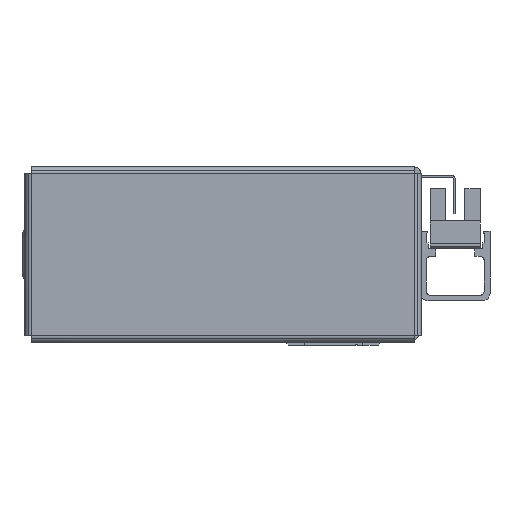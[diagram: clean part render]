
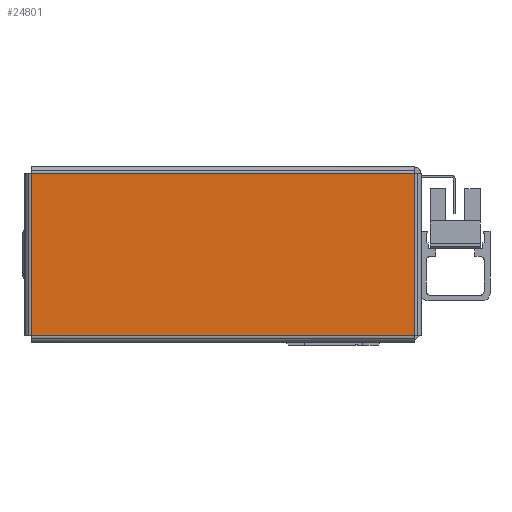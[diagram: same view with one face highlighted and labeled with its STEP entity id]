
A CAD part, left-side view. The second image highlights one B-rep face of the part: STEP entity #24801.
In plain terms, the highlighted planar face has unit normal (-1, 0, 0) as drawn and (0, 0, -1) by its records, which use the part's own axes.
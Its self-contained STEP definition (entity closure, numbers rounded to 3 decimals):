
#1122 = VECTOR ( 'NONE', #12627, 1000. ) ;
#1966 = DIRECTION ( 'NONE',  ( 1., 0., 0. ) ) ;
#2319 = CARTESIAN_POINT ( 'NONE',  ( 49.513, 21.013, -1. ) ) ;
#5187 = LINE ( 'NONE', #8451, #32665 ) ;
#6009 = LINE ( 'NONE', #33795, #14436 ) ;
#7589 = AXIS2_PLACEMENT_3D ( 'NONE', #21538, #18910, #1966 ) ;
#8451 = CARTESIAN_POINT ( 'NONE',  ( -49.513, -21.043, -1. ) ) ;
#10169 = VERTEX_POINT ( 'NONE', #2319 ) ;
#11085 = VERTEX_POINT ( 'NONE', #22578 ) ;
#11402 = CARTESIAN_POINT ( 'NONE',  ( -49.513, -21.013, -1. ) ) ;
#11528 = VERTEX_POINT ( 'NONE', #32814 ) ;
#12152 = DIRECTION ( 'NONE',  ( 1., 0., 0. ) ) ;
#12627 = DIRECTION ( 'NONE',  ( 0., -1., 0. ) ) ;
#12991 = DIRECTION ( 'NONE',  ( -1., 0., 0. ) ) ;
#14436 = VECTOR ( 'NONE', #12991, 1000. ) ;
#15351 = FACE_OUTER_BOUND ( 'NONE', #33067, .T. ) ;
#16107 = PLANE ( 'NONE',  #7589 ) ;
#16214 = LINE ( 'NONE', #30922, #1122 ) ;
#18108 = ORIENTED_EDGE ( 'NONE', *, *, #24408, .T. ) ;
#18835 = LINE ( 'NONE', #30528, #25838 ) ;
#18885 = ORIENTED_EDGE ( 'NONE', *, *, #25147, .T. ) ;
#18910 = DIRECTION ( 'NONE',  ( 0., 0., 1. ) ) ;
#18935 = ORIENTED_EDGE ( 'NONE', *, *, #25281, .T. ) ;
#19162 = ORIENTED_EDGE ( 'NONE', *, *, #25385, .T. ) ;
#21538 = CARTESIAN_POINT ( 'NONE',  ( 0., 0., -1. ) ) ;
#22578 = CARTESIAN_POINT ( 'NONE',  ( -49.513, 21.013, -1. ) ) ;
#24408 = EDGE_CURVE ( 'NONE', #30402, #11085, #5187, .T. ) ;
#24801 = ADVANCED_FACE ( 'NONE', ( #15351 ), #16107, .F. ) ;
#25055 = DIRECTION ( 'NONE',  ( 0., 1., 0. ) ) ;
#25147 = EDGE_CURVE ( 'NONE', #11085, #10169, #18835, .T. ) ;
#25281 = EDGE_CURVE ( 'NONE', #10169, #11528, #16214, .T. ) ;
#25385 = EDGE_CURVE ( 'NONE', #11528, #30402, #6009, .T. ) ;
#25838 = VECTOR ( 'NONE', #12152, 1000. ) ;
#30402 = VERTEX_POINT ( 'NONE', #11402 ) ;
#30528 = CARTESIAN_POINT ( 'NONE',  ( -49.543, 21.013, -1. ) ) ;
#30922 = CARTESIAN_POINT ( 'NONE',  ( 49.513, 21.043, -1. ) ) ;
#32665 = VECTOR ( 'NONE', #25055, 1000. ) ;
#32814 = CARTESIAN_POINT ( 'NONE',  ( 49.513, -21.013, -1. ) ) ;
#33067 = EDGE_LOOP ( 'NONE', ( #18108, #18885, #18935, #19162 ) ) ;
#33795 = CARTESIAN_POINT ( 'NONE',  ( 49.543, -21.013, -1. ) ) ;
